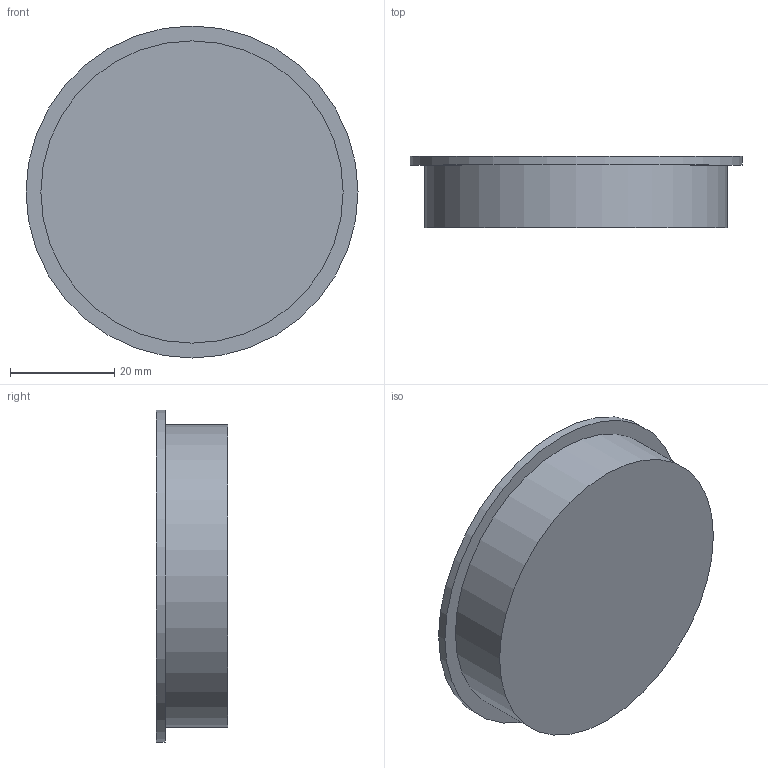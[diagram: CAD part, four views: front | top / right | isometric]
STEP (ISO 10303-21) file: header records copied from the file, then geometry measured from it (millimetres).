
FILE_DESCRIPTION (( 'STEP AP203' ), '1' );
FILE_NAME ('Eco Spot.STEP', '2022-08-04T07:37:31', ( '' ), ( '' ), 'SwSTEP 2.0', 'SolidWorks 2021', '' );
FILE_SCHEMA (( 'CONFIG_CONTROL_DESIGN' ));
Length unit declared in the file: millimetre
Products named in the file (1): Eco Spot
Bounding box: 63.7 x 13.7 x 63.7 mm (x, y, z)
Volume: 34986.4 mm3; surface area: 9114.2 mm2
Topology: 1 solids, 1 shells, 7 faces, 9 edges, 6 vertices
Faces by surface type: plane 4, cylinder 3
Full cylindrical faces by diameter (mm): 40 x1, 58 x1, 63.7 x1
Entity records: 211 total; most frequent: DIRECTION 28, CARTESIAN_POINT 20, AXIS2_PLACEMENT_3D 14, ORIENTED_EDGE 12, EDGE_LOOP 12, FACE_OUTER_BOUND 10, PERSON_AND_ORGANIZATION 8, ADVANCED_FACE 7
